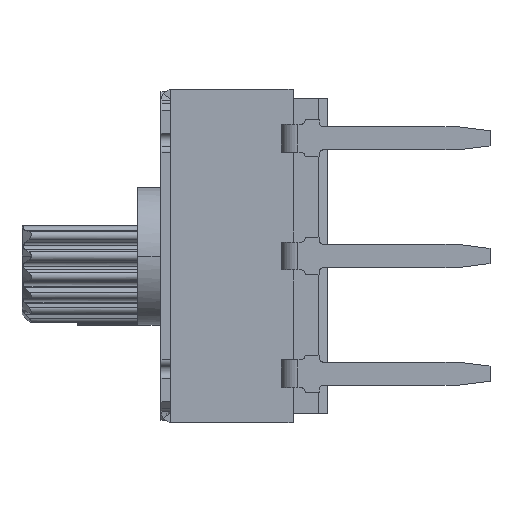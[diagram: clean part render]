
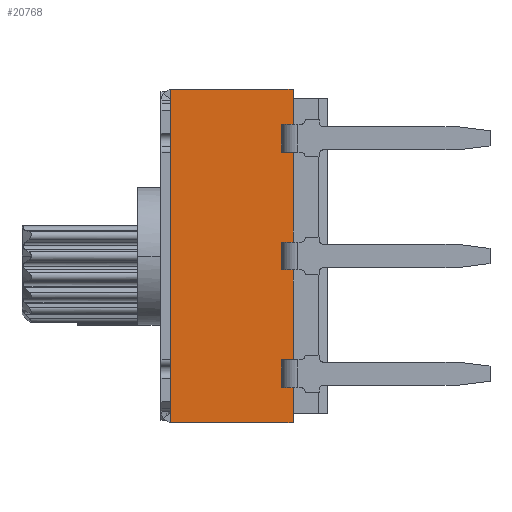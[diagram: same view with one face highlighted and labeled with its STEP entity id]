
A CAD part, left-side view. The second image highlights one B-rep face of the part: STEP entity #20768.
In plain terms, the highlighted planar face has unit normal (-1, 0, 0).
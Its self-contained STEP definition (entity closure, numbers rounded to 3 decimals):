
#166 = DIRECTION ( 'NONE',  ( 0., -1., 0. ) ) ;
#282 = PLANE ( 'NONE',  #31909 ) ;
#420 = VECTOR ( 'NONE', #30512, 1000. ) ;
#465 = EDGE_CURVE ( 'NONE', #38251, #38036, #14852, .T. ) ;
#648 = CARTESIAN_POINT ( 'NONE',  ( -3.6, 4.42, 3.6 ) ) ;
#1244 = VECTOR ( 'NONE', #39465, 1000. ) ;
#1692 = EDGE_CURVE ( 'NONE', #22967, #9257, #42219, .T. ) ;
#1790 = EDGE_CURVE ( 'NONE', #22350, #30969, #7860, .T. ) ;
#2758 = DIRECTION ( 'NONE',  ( 0., -1., 0. ) ) ;
#2876 = ORIENTED_EDGE ( 'NONE', *, *, #27832, .F. ) ;
#2922 = CARTESIAN_POINT ( 'NONE',  ( -3.6, 3.4, 3.6 ) ) ;
#3631 = LINE ( 'NONE', #16962, #46601 ) ;
#3962 = DIRECTION ( 'NONE',  ( 0., 1., 0. ) ) ;
#3989 = DIRECTION ( 'NONE',  ( 0., 0., -1. ) ) ;
#4607 = CARTESIAN_POINT ( 'NONE',  ( -3.6, 0.75, -3.6 ) ) ;
#5008 = CARTESIAN_POINT ( 'NONE',  ( -3.6, 1., 3.4 ) ) ;
#5210 = VECTOR ( 'NONE', #3989, 1000. ) ;
#5260 = VECTOR ( 'NONE', #23174, 1000. ) ;
#5676 = DIRECTION ( 'NONE',  ( 0., 0., -1. ) ) ;
#6176 = CARTESIAN_POINT ( 'NONE',  ( -3.6, 1., 3.4 ) ) ;
#6259 = ORIENTED_EDGE ( 'NONE', *, *, #31001, .F. ) ;
#6434 = EDGE_CURVE ( 'NONE', #37602, #38036, #24662, .T. ) ;
#6630 = EDGE_CURVE ( 'NONE', #37602, #14353, #41304, .T. ) ;
#7226 = CARTESIAN_POINT ( 'NONE',  ( -3.6, 4.42, -3.6 ) ) ;
#7642 = DIRECTION ( 'NONE',  ( 1., 0., 0. ) ) ;
#7858 = EDGE_CURVE ( 'NONE', #16545, #8791, #19104, .T. ) ;
#7860 = LINE ( 'NONE', #19676, #420 ) ;
#8122 = CARTESIAN_POINT ( 'NONE',  ( -3.6, 1., 0.3 ) ) ;
#8193 = CARTESIAN_POINT ( 'NONE',  ( -3.6, 0., 2.84 ) ) ;
#8791 = VERTEX_POINT ( 'NONE', #28845 ) ;
#9257 = VERTEX_POINT ( 'NONE', #16725 ) ;
#9698 = VECTOR ( 'NONE', #2758, 1000. ) ;
#10060 = ORIENTED_EDGE ( 'NONE', *, *, #10462, .T. ) ;
#10321 = DIRECTION ( 'NONE',  ( 0., 0., -1. ) ) ;
#10462 = EDGE_CURVE ( 'NONE', #13935, #37077, #15537, .T. ) ;
#11039 = DIRECTION ( 'NONE',  ( 0., -1., 0. ) ) ;
#11376 = DIRECTION ( 'NONE',  ( 0., 1., 0. ) ) ;
#11379 = VERTEX_POINT ( 'NONE', #25180 ) ;
#11551 = DIRECTION ( 'NONE',  ( 0., -1., 0. ) ) ;
#11846 = ORIENTED_EDGE ( 'NONE', *, *, #26012, .F. ) ;
#12108 = LINE ( 'NONE', #46499, #40120 ) ;
#13158 = LINE ( 'NONE', #24825, #29689 ) ;
#13300 = ORIENTED_EDGE ( 'NONE', *, *, #7858, .F. ) ;
#13926 = FACE_OUTER_BOUND ( 'NONE', #40627, .T. ) ;
#13935 = VERTEX_POINT ( 'NONE', #24310 ) ;
#14353 = VERTEX_POINT ( 'NONE', #29311 ) ;
#14852 = LINE ( 'NONE', #29698, #41165 ) ;
#15537 = LINE ( 'NONE', #7226, #28096 ) ;
#15616 = CARTESIAN_POINT ( 'NONE',  ( -3.6, 1., -0.3 ) ) ;
#15642 = EDGE_CURVE ( 'NONE', #11379, #38251, #13158, .T. ) ;
#16545 = VERTEX_POINT ( 'NONE', #19147 ) ;
#16725 = CARTESIAN_POINT ( 'NONE',  ( -3.6, 0.75, 3.6 ) ) ;
#16962 = CARTESIAN_POINT ( 'NONE',  ( -3.6, 0.75, 3.4 ) ) ;
#17390 = CARTESIAN_POINT ( 'NONE',  ( -3.6, 0.75, 0.3 ) ) ;
#17649 = VECTOR ( 'NONE', #33484, 1000. ) ;
#18153 = VECTOR ( 'NONE', #11551, 1000. ) ;
#19104 = LINE ( 'NONE', #8193, #33384 ) ;
#19147 = CARTESIAN_POINT ( 'NONE',  ( -3.6, 0.75, 2.84 ) ) ;
#19416 = LINE ( 'NONE', #39232, #9698 ) ;
#19676 = CARTESIAN_POINT ( 'NONE',  ( -3.6, 1., 3.4 ) ) ;
#20768 = ADVANCED_FACE ( 'NONE', ( #13926 ), #282, .F. ) ;
#21886 = EDGE_CURVE ( 'NONE', #40820, #30969, #26399, .T. ) ;
#22350 = VERTEX_POINT ( 'NONE', #40911 ) ;
#22485 = ORIENTED_EDGE ( 'NONE', *, *, #28679, .T. ) ;
#22967 = VERTEX_POINT ( 'NONE', #2922 ) ;
#23174 = DIRECTION ( 'NONE',  ( 0., 1., 0. ) ) ;
#24027 = ORIENTED_EDGE ( 'NONE', *, *, #1692, .F. ) ;
#24310 = CARTESIAN_POINT ( 'NONE',  ( -3.6, 3.4, -3.6 ) ) ;
#24662 = LINE ( 'NONE', #6176, #1244 ) ;
#24825 = CARTESIAN_POINT ( 'NONE',  ( -3.6, 0.75, 3.4 ) ) ;
#25180 = CARTESIAN_POINT ( 'NONE',  ( -3.6, 0.75, 2.24 ) ) ;
#25508 = CARTESIAN_POINT ( 'NONE',  ( -3.6, 0.75, -2.84 ) ) ;
#26012 = EDGE_CURVE ( 'NONE', #9257, #16545, #36103, .T. ) ;
#26212 = EDGE_CURVE ( 'NONE', #35246, #37077, #12108, .T. ) ;
#26399 = LINE ( 'NONE', #34210, #5260 ) ;
#26651 = ORIENTED_EDGE ( 'NONE', *, *, #47510, .F. ) ;
#26829 = VECTOR ( 'NONE', #166, 1000. ) ;
#26943 = VECTOR ( 'NONE', #11039, 1000. ) ;
#27085 = VECTOR ( 'NONE', #45531, 1000. ) ;
#27327 = LINE ( 'NONE', #33633, #17649 ) ;
#27789 = ORIENTED_EDGE ( 'NONE', *, *, #21886, .F. ) ;
#27832 = EDGE_CURVE ( 'NONE', #22350, #35246, #42363, .T. ) ;
#28096 = VECTOR ( 'NONE', #40196, 1000. ) ;
#28220 = ORIENTED_EDGE ( 'NONE', *, *, #465, .F. ) ;
#28679 = EDGE_CURVE ( 'NONE', #22967, #13935, #27327, .T. ) ;
#28845 = CARTESIAN_POINT ( 'NONE',  ( -3.6, 1., 2.84 ) ) ;
#29311 = CARTESIAN_POINT ( 'NONE',  ( -3.6, 0.75, -0.3 ) ) ;
#29565 = CARTESIAN_POINT ( 'NONE',  ( -3.6, 0., -2.84 ) ) ;
#29689 = VECTOR ( 'NONE', #10321, 1000. ) ;
#29698 = CARTESIAN_POINT ( 'NONE',  ( -3.6, 0., 0.3 ) ) ;
#30512 = DIRECTION ( 'NONE',  ( 0., 0., 1. ) ) ;
#30518 = CARTESIAN_POINT ( 'NONE',  ( -3.6, 1., -2.24 ) ) ;
#30969 = VERTEX_POINT ( 'NONE', #30518 ) ;
#31001 = EDGE_CURVE ( 'NONE', #14353, #40820, #3631, .T. ) ;
#31909 = AXIS2_PLACEMENT_3D ( 'NONE', #39992, #7642, #3962 ) ;
#32776 = ORIENTED_EDGE ( 'NONE', *, *, #1790, .T. ) ;
#33066 = CARTESIAN_POINT ( 'NONE',  ( -3.6, 0.75, 3.4 ) ) ;
#33384 = VECTOR ( 'NONE', #44557, 1000. ) ;
#33484 = DIRECTION ( 'NONE',  ( 0., 0., -1. ) ) ;
#33633 = CARTESIAN_POINT ( 'NONE',  ( -3.6, 3.4, 3.4 ) ) ;
#34210 = CARTESIAN_POINT ( 'NONE',  ( -3.6, 0., -2.24 ) ) ;
#35160 = DIRECTION ( 'NONE',  ( 0., 0., -1. ) ) ;
#35246 = VERTEX_POINT ( 'NONE', #25508 ) ;
#36103 = LINE ( 'NONE', #33066, #5210 ) ;
#36434 = CARTESIAN_POINT ( 'NONE',  ( -3.6, 0., -0.3 ) ) ;
#37077 = VERTEX_POINT ( 'NONE', #4607 ) ;
#37341 = CARTESIAN_POINT ( 'NONE',  ( -3.6, 1., 2.24 ) ) ;
#37602 = VERTEX_POINT ( 'NONE', #15616 ) ;
#37746 = EDGE_CURVE ( 'NONE', #38482, #8791, #42612, .T. ) ;
#38008 = ORIENTED_EDGE ( 'NONE', *, *, #6434, .T. ) ;
#38036 = VERTEX_POINT ( 'NONE', #8122 ) ;
#38251 = VERTEX_POINT ( 'NONE', #17390 ) ;
#38482 = VERTEX_POINT ( 'NONE', #37341 ) ;
#38680 = ORIENTED_EDGE ( 'NONE', *, *, #26212, .F. ) ;
#39232 = CARTESIAN_POINT ( 'NONE',  ( -3.6, 0., 2.24 ) ) ;
#39465 = DIRECTION ( 'NONE',  ( 0., 0., 1. ) ) ;
#39992 = CARTESIAN_POINT ( 'NONE',  ( -3.6, 0., 3.4 ) ) ;
#40120 = VECTOR ( 'NONE', #5676, 1000. ) ;
#40196 = DIRECTION ( 'NONE',  ( 0., -1., 0. ) ) ;
#40627 = EDGE_LOOP ( 'NONE', ( #27789, #6259, #46248, #38008, #28220, #42784, #26651, #41070, #13300, #11846, #24027, #22485, #10060, #38680, #2876, #32776 ) ) ;
#40820 = VERTEX_POINT ( 'NONE', #43107 ) ;
#40911 = CARTESIAN_POINT ( 'NONE',  ( -3.6, 1., -2.84 ) ) ;
#41070 = ORIENTED_EDGE ( 'NONE', *, *, #37746, .T. ) ;
#41165 = VECTOR ( 'NONE', #11376, 1000. ) ;
#41304 = LINE ( 'NONE', #36434, #26943 ) ;
#42219 = LINE ( 'NONE', #648, #18153 ) ;
#42363 = LINE ( 'NONE', #29565, #26829 ) ;
#42612 = LINE ( 'NONE', #5008, #27085 ) ;
#42784 = ORIENTED_EDGE ( 'NONE', *, *, #15642, .F. ) ;
#43107 = CARTESIAN_POINT ( 'NONE',  ( -3.6, 0.75, -2.24 ) ) ;
#44557 = DIRECTION ( 'NONE',  ( 0., 1., 0. ) ) ;
#45531 = DIRECTION ( 'NONE',  ( 0., 0., 1. ) ) ;
#46248 = ORIENTED_EDGE ( 'NONE', *, *, #6630, .F. ) ;
#46499 = CARTESIAN_POINT ( 'NONE',  ( -3.6, 0.75, 3.4 ) ) ;
#46601 = VECTOR ( 'NONE', #35160, 1000. ) ;
#47510 = EDGE_CURVE ( 'NONE', #38482, #11379, #19416, .T. ) ;
